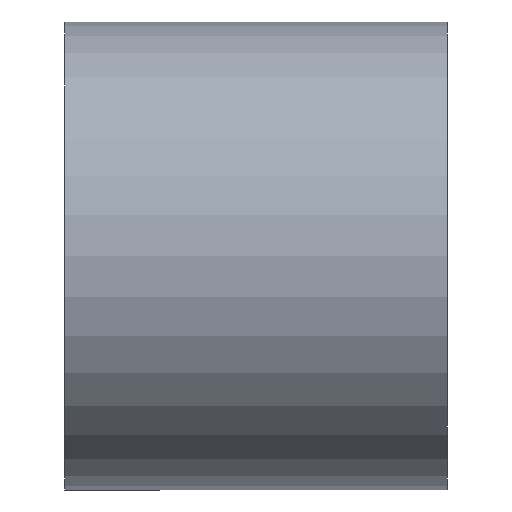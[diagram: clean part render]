
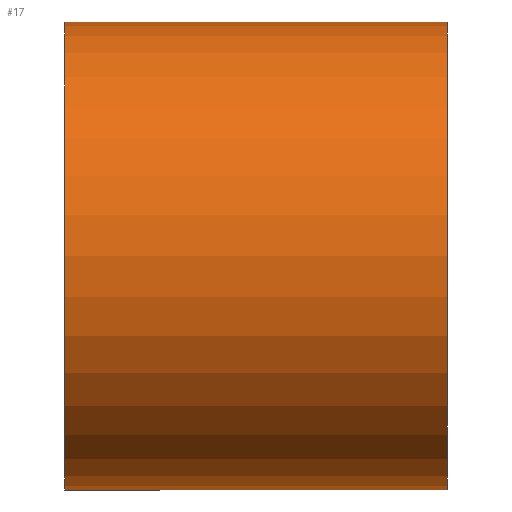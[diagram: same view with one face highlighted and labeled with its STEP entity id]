
A CAD part, left-side view. The second image highlights one B-rep face of the part: STEP entity #17.
In plain terms, the highlighted cylindrical face has radius 2.45 mm (diameter 4.9 mm), a full revolution.
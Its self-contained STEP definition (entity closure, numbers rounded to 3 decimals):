
#17 = ADVANCED_FACE('',(#18),#31,.T.);
#18 = FACE_BOUND('',#19,.T.);
#19 = EDGE_LOOP('',(#20,#54,#77,#104));
#20 = ORIENTED_EDGE('',*,*,#21,.F.);
#21 = EDGE_CURVE('',#22,#22,#24,.T.);
#22 = VERTEX_POINT('',#23);
#23 = CARTESIAN_POINT('',(2.45,-2.,0.));
#24 = SURFACE_CURVE('',#25,(#30,#42),.PCURVE_S1.);
#25 = CIRCLE('',#26,2.45);
#26 = AXIS2_PLACEMENT_3D('',#27,#28,#29);
#27 = CARTESIAN_POINT('',(0.,-2.,0.));
#28 = DIRECTION('',(0.,-1.,0.));
#29 = DIRECTION('',(1.,0.,0.));
#30 = PCURVE('',#31,#36);
#31 = CYLINDRICAL_SURFACE('',#32,2.45);
#32 = AXIS2_PLACEMENT_3D('',#33,#34,#35);
#33 = CARTESIAN_POINT('',(0.,2.,0.));
#34 = DIRECTION('',(0.,-1.,0.));
#35 = DIRECTION('',(1.,0.,0.));
#36 = DEFINITIONAL_REPRESENTATION('',(#37),#41);
#37 = LINE('',#38,#39);
#38 = CARTESIAN_POINT('',(0.,4.));
#39 = VECTOR('',#40,1.);
#40 = DIRECTION('',(1.,0.));
#41 = ( GEOMETRIC_REPRESENTATION_CONTEXT(2) 
PARAMETRIC_REPRESENTATION_CONTEXT() REPRESENTATION_CONTEXT('2D SPACE',''
  ) );
#42 = PCURVE('',#43,#48);
#43 = PLANE('',#44);
#44 = AXIS2_PLACEMENT_3D('',#45,#46,#47);
#45 = CARTESIAN_POINT('',(0.,-2.,0.));
#46 = DIRECTION('',(0.,-1.,0.));
#47 = DIRECTION('',(1.,0.,0.));
#48 = DEFINITIONAL_REPRESENTATION('',(#49),#53);
#49 = CIRCLE('',#50,2.45);
#50 = AXIS2_PLACEMENT_2D('',#51,#52);
#51 = CARTESIAN_POINT('',(0.,0.));
#52 = DIRECTION('',(1.,0.));
#53 = ( GEOMETRIC_REPRESENTATION_CONTEXT(2) 
PARAMETRIC_REPRESENTATION_CONTEXT() REPRESENTATION_CONTEXT('2D SPACE',''
  ) );
#54 = ORIENTED_EDGE('',*,*,#55,.F.);
#55 = EDGE_CURVE('',#56,#22,#58,.T.);
#56 = VERTEX_POINT('',#57);
#57 = CARTESIAN_POINT('',(2.45,2.,0.));
#58 = SEAM_CURVE('',#59,(#63,#70),.PCURVE_S1.);
#59 = LINE('',#60,#61);
#60 = CARTESIAN_POINT('',(2.45,2.,0.));
#61 = VECTOR('',#62,1.);
#62 = DIRECTION('',(0.,-1.,0.));
#63 = PCURVE('',#31,#64);
#64 = DEFINITIONAL_REPRESENTATION('',(#65),#69);
#65 = LINE('',#66,#67);
#66 = CARTESIAN_POINT('',(6.283,-0.));
#67 = VECTOR('',#68,1.);
#68 = DIRECTION('',(0.,1.));
#69 = ( GEOMETRIC_REPRESENTATION_CONTEXT(2) 
PARAMETRIC_REPRESENTATION_CONTEXT() REPRESENTATION_CONTEXT('2D SPACE',''
  ) );
#70 = PCURVE('',#31,#71);
#71 = DEFINITIONAL_REPRESENTATION('',(#72),#76);
#72 = LINE('',#73,#74);
#73 = CARTESIAN_POINT('',(0.,-0.));
#74 = VECTOR('',#75,1.);
#75 = DIRECTION('',(0.,1.));
#76 = ( GEOMETRIC_REPRESENTATION_CONTEXT(2) 
PARAMETRIC_REPRESENTATION_CONTEXT() REPRESENTATION_CONTEXT('2D SPACE',''
  ) );
#77 = ORIENTED_EDGE('',*,*,#78,.T.);
#78 = EDGE_CURVE('',#56,#56,#79,.T.);
#79 = SURFACE_CURVE('',#80,(#85,#92),.PCURVE_S1.);
#80 = CIRCLE('',#81,2.45);
#81 = AXIS2_PLACEMENT_3D('',#82,#83,#84);
#82 = CARTESIAN_POINT('',(0.,2.,0.));
#83 = DIRECTION('',(0.,-1.,0.));
#84 = DIRECTION('',(1.,0.,0.));
#85 = PCURVE('',#31,#86);
#86 = DEFINITIONAL_REPRESENTATION('',(#87),#91);
#87 = LINE('',#88,#89);
#88 = CARTESIAN_POINT('',(0.,0.));
#89 = VECTOR('',#90,1.);
#90 = DIRECTION('',(1.,0.));
#91 = ( GEOMETRIC_REPRESENTATION_CONTEXT(2) 
PARAMETRIC_REPRESENTATION_CONTEXT() REPRESENTATION_CONTEXT('2D SPACE',''
  ) );
#92 = PCURVE('',#93,#98);
#93 = PLANE('',#94);
#94 = AXIS2_PLACEMENT_3D('',#95,#96,#97);
#95 = CARTESIAN_POINT('',(0.,2.,0.));
#96 = DIRECTION('',(0.,-1.,0.));
#97 = DIRECTION('',(1.,0.,0.));
#98 = DEFINITIONAL_REPRESENTATION('',(#99),#103);
#99 = CIRCLE('',#100,2.45);
#100 = AXIS2_PLACEMENT_2D('',#101,#102);
#101 = CARTESIAN_POINT('',(0.,0.));
#102 = DIRECTION('',(1.,0.));
#103 = ( GEOMETRIC_REPRESENTATION_CONTEXT(2) 
PARAMETRIC_REPRESENTATION_CONTEXT() REPRESENTATION_CONTEXT('2D SPACE',''
  ) );
#104 = ORIENTED_EDGE('',*,*,#55,.T.);
